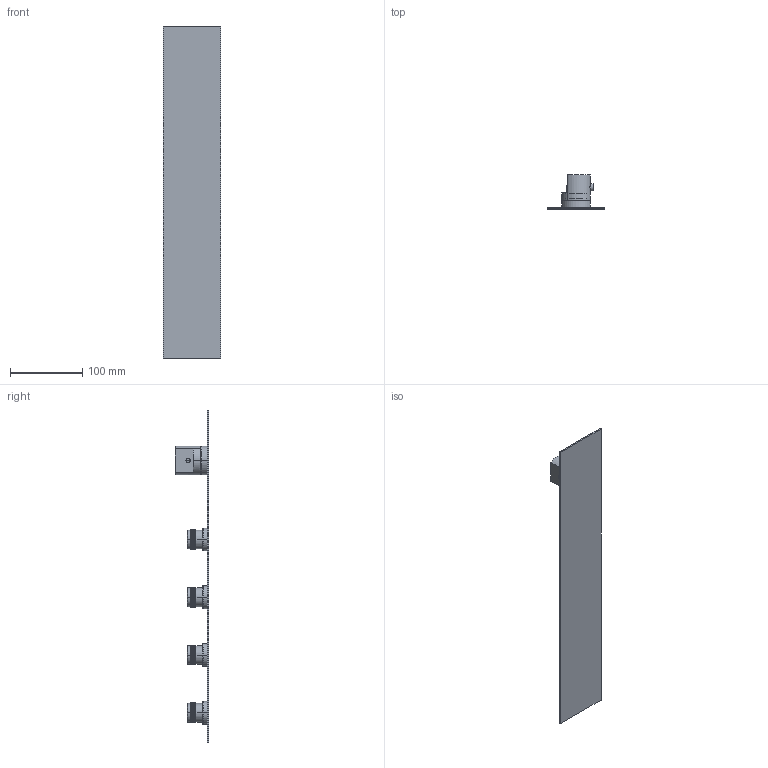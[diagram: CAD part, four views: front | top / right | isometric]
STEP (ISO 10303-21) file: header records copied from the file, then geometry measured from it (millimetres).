
FILE_DESCRIPTION((''),'2;1');
FILE_NAME('89600V421_SW0001','2025-11-24T17:13:00',('carloff'),(''),'CREO PARAMETRIC BY PTC INC, 2022014','CREO PARAMETRIC BY PTC INC, 2022014','');
FILE_SCHEMA(('CONFIG_CONTROL_DESIGN'));
Products named in the file (1): 89600V421_SW0001
Bounding box: 80 x 46.6 x 460 mm (x, y, z)
Volume: 171709 mm3; surface area: 98874.7 mm2
Topology: 2 solids, 2 shells, 6650 faces, 16553 edges, 10933 vertices
Faces by surface type: bspline 5120, cylinder 1433, plane 49, torus 24, cone 14, sphere 10
Entity records: 281478 total; most frequent: CARTESIAN_POINT 158091, ORIENTED_EDGE 33082, EDGE_CURVE 16541, VERTEX_POINT 10933, B_SPLINE_CURVE_WITH_KNOTS 10390, DIRECTION 9881, EDGE_LOOP 7690, FACE_OUTER_BOUND 6650
